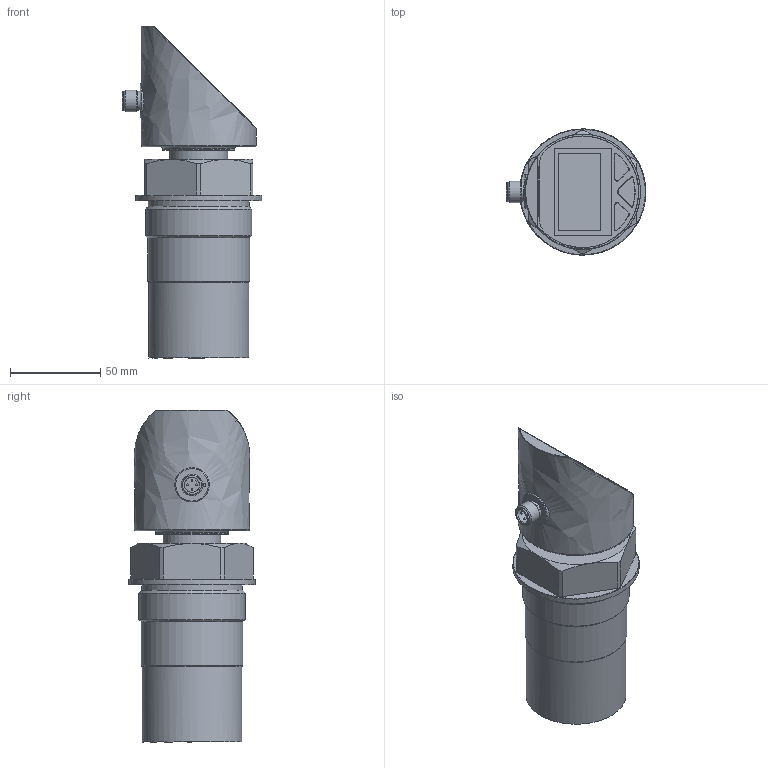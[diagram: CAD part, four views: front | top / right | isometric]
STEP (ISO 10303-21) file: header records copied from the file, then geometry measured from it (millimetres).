
FILE_DESCRIPTION( ('This file contains a STEP AP42 implementation' ,'as created by ZW3D STEP Interface translator.') ,'2;1' );
FILE_NAME( 'usn4sp_08.stp' ,'17 5 5.115652', (''), ('ZWCAD Software Co.'), 'Version 1.0', 'ZW3D to STEP translator', '' );
FILE_SCHEMA( ('CONFIG_CONTROL_DESIGN') );
Length unit declared in the file: millimetre
Products named in the file (1): 0
Bounding box: 77.5 x 69.99 x 184.1 mm (x, y, z)
Volume: 431826.8 mm3; surface area: 46787 mm2
Topology: 1 solids, 2 shells, 141 faces, 311 edges, 197 vertices
Faces by surface type: bspline 141
Entity records: 5399 total; most frequent: CARTESIAN_POINT 3380, ORIENTED_EDGE 622, EDGE_CURVE 311, VERTEX_POINT 197, EDGE_LOOP 164, B_SPLINE_CURVE_WITH_KNOTS 143, FACE_OUTER_BOUND 141, ADVANCED_FACE 141
